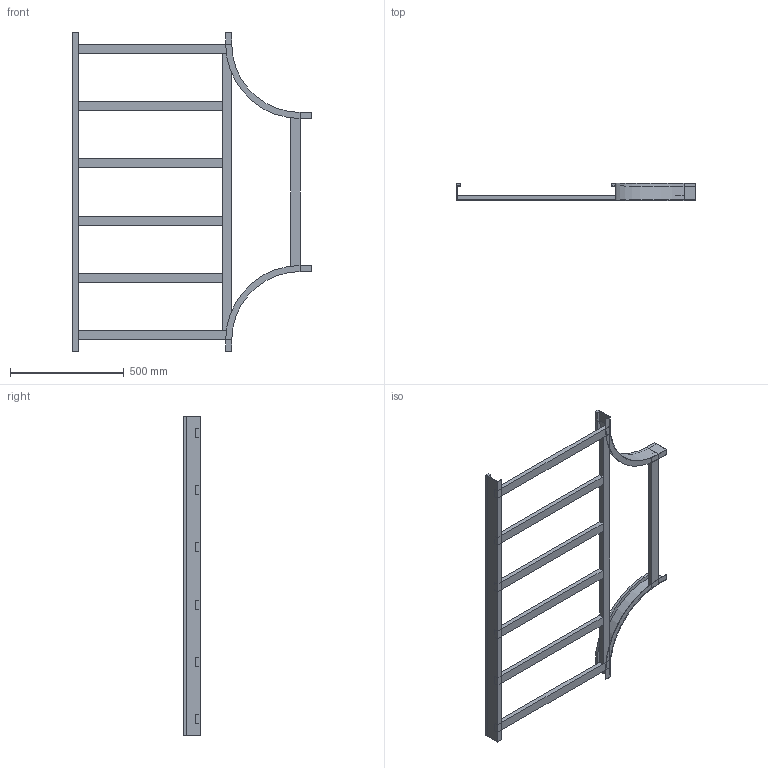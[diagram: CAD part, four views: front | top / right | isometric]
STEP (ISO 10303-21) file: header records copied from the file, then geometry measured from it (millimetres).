
FILE_DESCRIPTION (( 'STEP AP214' ), '1' );
FILE_NAME ('B2_15B3C700.step', '2025-02-21T15:53:57', ( '' ), ( '' ), 'SwSTEP 2.0', 'SolidWorks 2023', '' );
FILE_SCHEMA (( 'AUTOMOTIVE_DESIGN' ));
Length unit declared in the file: millimetre
Products named in the file (6): B2_LONGH.INTERNO 90°_H75_R300; TRAVERSINO_700; TRAVERSINO_INTERMEDIO_R300+700; B2_LONGH.RETT_H75_R300+700; B2_15B3C700; B2_TRAVERSINO_LONG._R300+700
Assembly tree (11 placements, depth 2):
  B2_15B3C700
    B2_LONGH.INTERNO 90°_H75_R300  x2
    B2_LONGH.RETT_H75_R300+700
    TRAVERSINO_700  x3
    B2_TRAVERSINO_LONG._R300+700
    TRAVERSINO_INTERMEDIO_R300+700  x4
Bounding box: 1050 x 75 x 1400 mm (x, y, z)
Volume: 5807922 mm3; surface area: 1337272.8 mm2
Topology: 11 solids, 11 shells, 110 faces, 232 edges, 144 vertices
Faces by surface type: plane 102, cylinder 8
Entity records: 1655 total; most frequent: DIRECTION 260, CARTESIAN_POINT 256, ORIENTED_EDGE 232, EDGE_CURVE 116, VECTOR 108, LINE 108, AXIS2_PLACEMENT_3D 76, VERTEX_POINT 72
